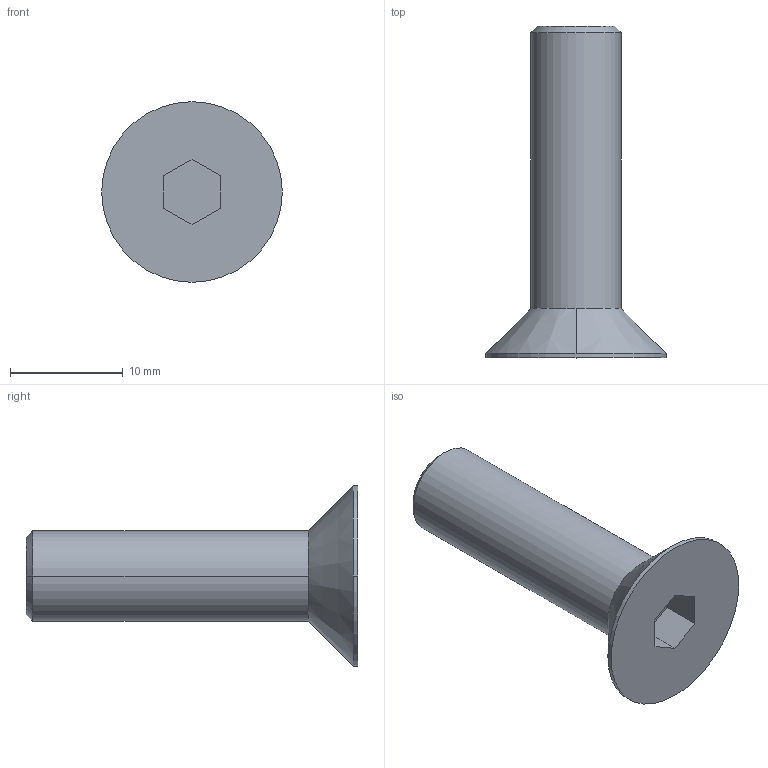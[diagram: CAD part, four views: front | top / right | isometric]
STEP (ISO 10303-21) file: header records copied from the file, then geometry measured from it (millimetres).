
FILE_DESCRIPTION((''),'2;1');
FILE_NAME('VTSEI0825','2002-12-27T',('Lipro doo'),('Lipro d.o.o.'),'PRO/ENGINEER BY PARAMETRIC TECHNOLOGY CORPORATION, 2001150','PRO/ENGINEER BY PARAMETRIC TECHNOLOGY CORPORATION, 2001150','');
FILE_SCHEMA(('CONFIG_CONTROL_DESIGN'));
Length unit declared in the file: millimetre
Products named in the file (1): VTSEI0825
Bounding box: 16 x 29.4 x 16 mm (x, y, z)
Volume: 1726.1 mm3; surface area: 1698.4 mm2
Topology: 1 solids, 2 shells, 19 faces, 46 edges, 30 vertices
Faces by surface type: plane 9, cylinder 6, cone 4
Entity records: 606 total; most frequent: DIRECTION 104, CARTESIAN_POINT 96, ORIENTED_EDGE 88, EDGE_CURVE 46, AXIS2_PLACEMENT_3D 38, VERTEX_POINT 30, VECTOR 28, LINE 28
